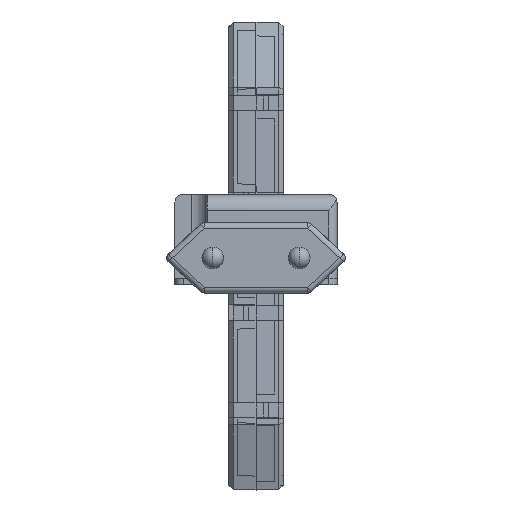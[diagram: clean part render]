
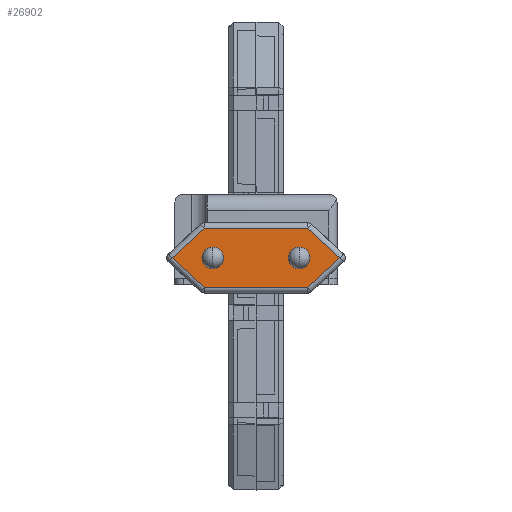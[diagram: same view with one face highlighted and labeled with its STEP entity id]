
A CAD part, left-side view. The second image highlights one B-rep face of the part: STEP entity #26902.
In plain terms, the highlighted planar face has unit normal (-1, 0, 0) as drawn and (0, 0, 1) by its records, which use the part's own axes.
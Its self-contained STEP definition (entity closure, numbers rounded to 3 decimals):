
#174 = VECTOR ( 'NONE', #32226, 1000. ) ;
#545 = VECTOR ( 'NONE', #27896, 1000. ) ;
#729 = EDGE_CURVE ( 'NONE', #19260, #32280, #17409, .T. ) ;
#1584 = CIRCLE ( 'NONE', #24017, 1.9 ) ;
#1875 = EDGE_CURVE ( 'NONE', #32280, #20029, #13922, .T. ) ;
#1956 = EDGE_CURVE ( 'NONE', #8824, #11896, #12780, .T. ) ;
#5239 = PLANE ( 'NONE',  #5744 ) ;
#5621 = EDGE_CURVE ( 'NONE', #26176, #20951, #6155, .T. ) ;
#5744 = AXIS2_PLACEMENT_3D ( 'NONE', #13359, #39493, #16755 ) ;
#5822 = DIRECTION ( 'NONE',  ( -1., 0., 0. ) ) ;
#6155 = LINE ( 'NONE', #15688, #31779 ) ;
#7819 = DIRECTION ( 'NONE',  ( 0., 0., 1. ) ) ;
#8217 = FACE_BOUND ( 'NONE', #18342, .T. ) ;
#8824 = VERTEX_POINT ( 'NONE', #30764 ) ;
#10348 = DIRECTION ( 'NONE',  ( 0., 1., 0. ) ) ;
#11553 = VECTOR ( 'NONE', #10348, 1000. ) ;
#11896 = VERTEX_POINT ( 'NONE', #20358 ) ;
#12780 = CIRCLE ( 'NONE', #41953, 1.9 ) ;
#13359 = CARTESIAN_POINT ( 'NONE',  ( -15.786, 0., 68.5 ) ) ;
#13366 = VECTOR ( 'NONE', #24331, 1000. ) ;
#13922 = LINE ( 'NONE', #26870, #545 ) ;
#15157 = CARTESIAN_POINT ( 'NONE',  ( 0., -8., 68.5 ) ) ;
#15688 = CARTESIAN_POINT ( 'NONE',  ( -0.733, 16.32, 68.5 ) ) ;
#16234 = DIRECTION ( 'NONE',  ( -1., 0., 0. ) ) ;
#16627 = AXIS2_PLACEMENT_3D ( 'NONE', #22180, #35153, #16234 ) ;
#16755 = DIRECTION ( 'NONE',  ( 1., 0., 0. ) ) ;
#17367 = DIRECTION ( 'NONE',  ( 1., 0., 0. ) ) ;
#17409 = LINE ( 'NONE', #26332, #26958 ) ;
#18086 = AXIS2_PLACEMENT_3D ( 'NONE', #30419, #41034, #27847 ) ;
#18342 = EDGE_LOOP ( 'NONE', ( #39985, #29388 ) ) ;
#19032 = ORIENTED_EDGE ( 'NONE', *, *, #24852, .F. ) ;
#19260 = VERTEX_POINT ( 'NONE', #22480 ) ;
#20029 = VERTEX_POINT ( 'NONE', #27235 ) ;
#20358 = CARTESIAN_POINT ( 'NONE',  ( -1.9, -8., 68.5 ) ) ;
#20951 = VERTEX_POINT ( 'NONE', #27625 ) ;
#22180 = CARTESIAN_POINT ( 'NONE',  ( 0., -8., 68.5 ) ) ;
#22480 = CARTESIAN_POINT ( 'NONE',  ( -5.5, 9.607, 68.5 ) ) ;
#22683 = CARTESIAN_POINT ( 'NONE',  ( 5.767, -9.32, 68.5 ) ) ;
#22721 = DIRECTION ( 'NONE',  ( 0., -1., 0. ) ) ;
#23145 = CARTESIAN_POINT ( 'NONE',  ( -1.9, 8., 68.5 ) ) ;
#23299 = ORIENTED_EDGE ( 'NONE', *, *, #23862, .T. ) ;
#23424 = CIRCLE ( 'NONE', #16627, 1.9 ) ;
#23840 = CARTESIAN_POINT ( 'NONE',  ( 5.5, -9.607, 68.5 ) ) ;
#23862 = EDGE_CURVE ( 'NONE', #20029, #34986, #38411, .T. ) ;
#24017 = AXIS2_PLACEMENT_3D ( 'NONE', #26490, #7819, #17367 ) ;
#24156 = FACE_OUTER_BOUND ( 'NONE', #41917, .T. ) ;
#24331 = DIRECTION ( 'NONE',  ( -0.68, -0.733, 0. ) ) ;
#24852 = EDGE_CURVE ( 'NONE', #31032, #32514, #1584, .T. ) ;
#25673 = EDGE_CURVE ( 'NONE', #34986, #26176, #26474, .T. ) ;
#26176 = VERTEX_POINT ( 'NONE', #36809 ) ;
#26332 = CARTESIAN_POINT ( 'NONE',  ( -5.5, -10., 68.5 ) ) ;
#26474 = LINE ( 'NONE', #35621, #11553 ) ;
#26490 = CARTESIAN_POINT ( 'NONE',  ( 0., 8., 68.5 ) ) ;
#26870 = CARTESIAN_POINT ( 'NONE',  ( 0.733, -16.32, 68.5 ) ) ;
#26902 = ADVANCED_FACE ( 'NONE', ( #24156, #30708, #8217 ), #5239, .T. ) ;
#26958 = VECTOR ( 'NONE', #22721, 1000. ) ;
#27235 = CARTESIAN_POINT ( 'NONE',  ( 0., -15.53, 68.5 ) ) ;
#27625 = CARTESIAN_POINT ( 'NONE',  ( 0., 15.53, 68.5 ) ) ;
#27847 = DIRECTION ( 'NONE',  ( 1., 0., 0. ) ) ;
#27896 = DIRECTION ( 'NONE',  ( 0.68, -0.733, 0. ) ) ;
#28639 = DIRECTION ( 'NONE',  ( -0.68, 0.733, 0. ) ) ;
#29081 = EDGE_CURVE ( 'NONE', #32514, #31032, #35049, .T. ) ;
#29388 = ORIENTED_EDGE ( 'NONE', *, *, #1956, .F. ) ;
#29487 = EDGE_CURVE ( 'NONE', #20951, #19260, #30888, .T. ) ;
#29989 = CARTESIAN_POINT ( 'NONE',  ( -5.5, -9.607, 68.5 ) ) ;
#30419 = CARTESIAN_POINT ( 'NONE',  ( 0., 8., 68.5 ) ) ;
#30708 = FACE_BOUND ( 'NONE', #40675, .T. ) ;
#30764 = CARTESIAN_POINT ( 'NONE',  ( 1.9, -8., 68.5 ) ) ;
#30888 = LINE ( 'NONE', #34699, #13366 ) ;
#31032 = VERTEX_POINT ( 'NONE', #23145 ) ;
#31779 = VECTOR ( 'NONE', #28639, 1000. ) ;
#32226 = DIRECTION ( 'NONE',  ( 0.68, 0.733, 0. ) ) ;
#32280 = VERTEX_POINT ( 'NONE', #29989 ) ;
#32348 = ORIENTED_EDGE ( 'NONE', *, *, #29081, .F. ) ;
#32396 = ORIENTED_EDGE ( 'NONE', *, *, #25673, .T. ) ;
#32514 = VERTEX_POINT ( 'NONE', #37568 ) ;
#33443 = ORIENTED_EDGE ( 'NONE', *, *, #1875, .T. ) ;
#33933 = ORIENTED_EDGE ( 'NONE', *, *, #5621, .T. ) ;
#34699 = CARTESIAN_POINT ( 'NONE',  ( -5.767, 9.32, 68.5 ) ) ;
#34986 = VERTEX_POINT ( 'NONE', #23840 ) ;
#35049 = CIRCLE ( 'NONE', #18086, 1.9 ) ;
#35153 = DIRECTION ( 'NONE',  ( 0., 0., 1. ) ) ;
#35621 = CARTESIAN_POINT ( 'NONE',  ( 5.5, 10., 68.5 ) ) ;
#36809 = CARTESIAN_POINT ( 'NONE',  ( 5.5, 9.607, 68.5 ) ) ;
#37118 = ORIENTED_EDGE ( 'NONE', *, *, #729, .T. ) ;
#37568 = CARTESIAN_POINT ( 'NONE',  ( 1.9, 8., 68.5 ) ) ;
#38411 = LINE ( 'NONE', #22683, #174 ) ;
#39002 = EDGE_CURVE ( 'NONE', #11896, #8824, #23424, .T. ) ;
#39493 = DIRECTION ( 'NONE',  ( 0., 0., 1. ) ) ;
#39985 = ORIENTED_EDGE ( 'NONE', *, *, #39002, .F. ) ;
#40675 = EDGE_LOOP ( 'NONE', ( #19032, #32348 ) ) ;
#40901 = ORIENTED_EDGE ( 'NONE', *, *, #29487, .T. ) ;
#41034 = DIRECTION ( 'NONE',  ( 0., 0., 1. ) ) ;
#41083 = DIRECTION ( 'NONE',  ( 0., 0., 1. ) ) ;
#41917 = EDGE_LOOP ( 'NONE', ( #23299, #32396, #33933, #40901, #37118, #33443 ) ) ;
#41953 = AXIS2_PLACEMENT_3D ( 'NONE', #15157, #41083, #5822 ) ;
